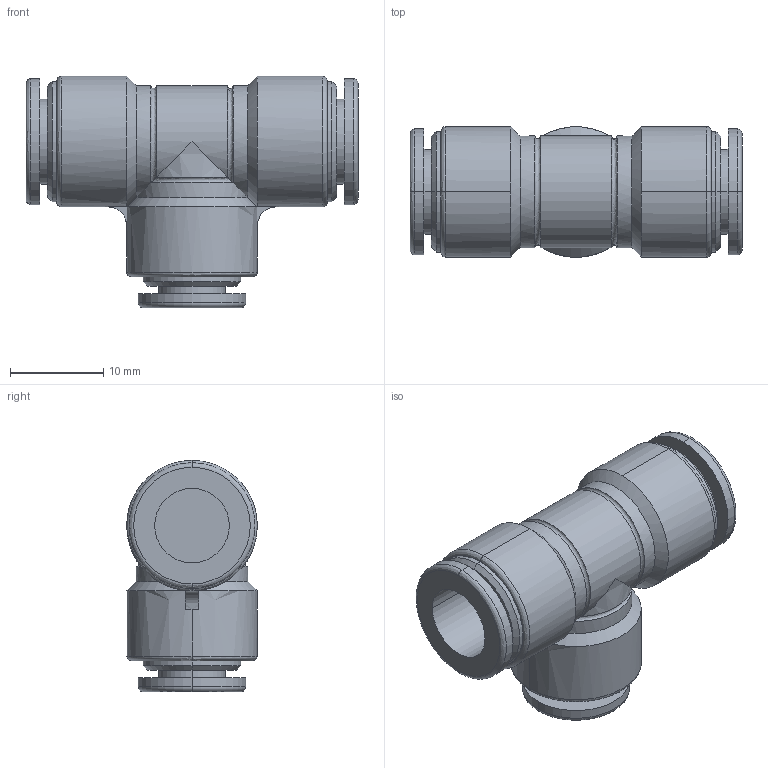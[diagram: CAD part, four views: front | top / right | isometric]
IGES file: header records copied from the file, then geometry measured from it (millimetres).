
Global section: file name: No Iges File Name specified; native system: AutoDesk Inventor R11.0; preprocessor: AutoDesk Inventor Iges Exporter R11.0; author: No Author specified; organization: No Organization specified; date: 20120321.162447; units: millimetre
Bounding box: 35.6 x 14 x 24.8 mm (x, y, z)
Volume: 4591.7 mm3; surface area: 3690.4 mm2
Topology: 1 solids, 1 shells, 92 faces, 208 edges, 130 vertices
Faces by surface type: bspline 50, cylinder 16, plane 13, torus 6, cone 5, revolution 2
